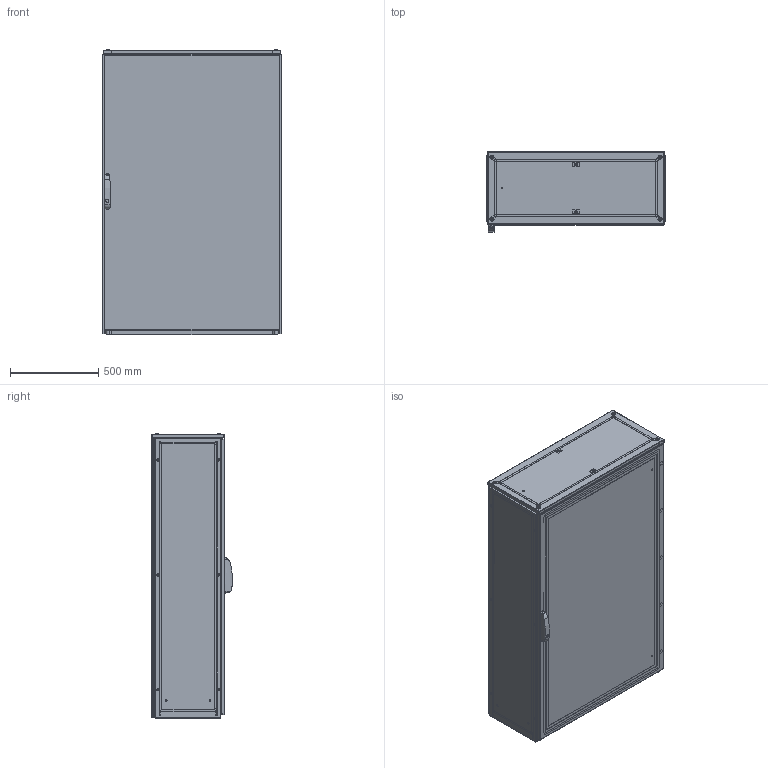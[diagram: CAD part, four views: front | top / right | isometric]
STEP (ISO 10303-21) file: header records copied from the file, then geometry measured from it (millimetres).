
FILE_DESCRIPTION(/* description */ ('STEP AP214'),/* implementation_level */ '2;1');
FILE_NAME(/* name */ 'ENUX101604PR-LOD350',/* time_stamp */ '2025-10-03T13:44:54+02:00',/* author */ ('License CC BY-ND 4.0'),/* organization */ ('CADENAS'),/* preprocessor_version */ 'ST-DEVELOPER v19.3',/* originating_system */ 'PARTsolutions',/* authorisation */ ' ');
FILE_SCHEMA (('AUTOMOTIVE_DESIGN {1 0 10303 214 3 1 1}'));
Length unit declared in the file: millimetre
Products named in the file (11): ENUX101604PR-LOD350; ENUX101604PR-LOD350_CON; ENUX101604PR-LOD350_floor1; ENUX101604PR-LOD350_floor2; Screw M12x30 architecture 350; ENUX101604PR-LOD350_side; ENUX101604PR-LOD350_top; ENUX101604PR-LOD350_back_door_r; ENUX101604PR-LOD350_back_door_l; ENUX101604PR-LOD350_door; ENUX101604PR-LOD350_handle
Assembly tree (18 placements, depth 2):
  ENUX101604PR-LOD350
    ENUX101604PR-LOD350_CON
    ENUX101604PR-LOD350_floor1  x4
    ENUX101604PR-LOD350_floor2  x2
    Screw M12x30 architecture 350  x4
    ENUX101604PR-LOD350_side  x2
    ENUX101604PR-LOD350_top
    ENUX101604PR-LOD350_back_door_r
    ENUX101604PR-LOD350_back_door_l
    ENUX101604PR-LOD350_door
    ENUX101604PR-LOD350_handle
Bounding box: 1012 x 457 x 1614.1 mm (x, y, z)
Volume: 20529186.6 mm3; surface area: 16054757.1 mm2
Topology: 18 solids, 18 shells, 2003 faces, 5567 edges, 3630 vertices
Faces by surface type: plane 1023, cylinder 795, cone 86, torus 82, sphere 17
Full cylindrical faces by diameter (mm): 4.5 x132, 6 x20, 6.8 x8, 7 x3, 9 x11, 12 x16, 13 x4, 14 x2, 17 x2, 18 x1, 21 x4, 28 x2
Entity records: 51989 total; most frequent: DIRECTION 9011, CARTESIAN_POINT 9001, ORIENTED_EDGE 8412, EDGE_CURVE 4206, AXIS2_PLACEMENT_3D 3223, VERTEX_POINT 2942, LINE 2565, VECTOR 2565
